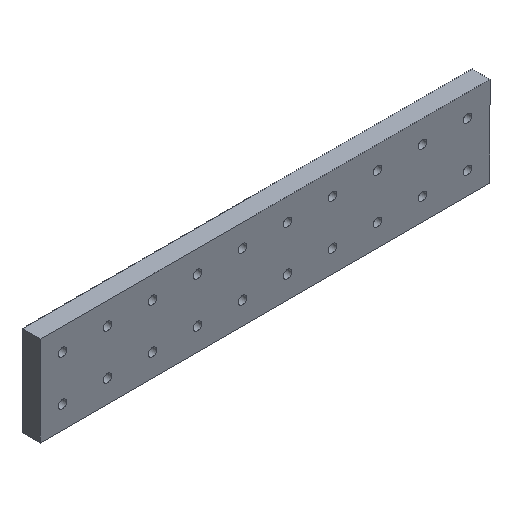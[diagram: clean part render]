
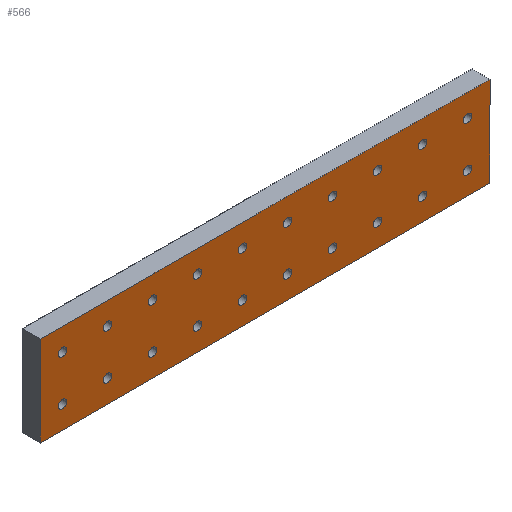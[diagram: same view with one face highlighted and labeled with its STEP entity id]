
A CAD part, isometric view. The second image highlights one B-rep face of the part: STEP entity #566.
In plain terms, the highlighted planar face has unit normal (0, -1, 0).
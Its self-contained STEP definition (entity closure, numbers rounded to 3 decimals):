
#35=FACE_BOUND('',#133,.T.);
#36=FACE_BOUND('',#134,.T.);
#37=FACE_BOUND('',#135,.T.);
#38=FACE_BOUND('',#136,.T.);
#39=FACE_BOUND('',#137,.T.);
#40=FACE_BOUND('',#138,.T.);
#41=FACE_BOUND('',#139,.T.);
#42=FACE_BOUND('',#140,.T.);
#43=FACE_BOUND('',#141,.T.);
#44=FACE_BOUND('',#142,.T.);
#45=FACE_BOUND('',#143,.T.);
#46=FACE_BOUND('',#144,.T.);
#47=FACE_BOUND('',#145,.T.);
#48=FACE_BOUND('',#146,.T.);
#49=FACE_BOUND('',#147,.T.);
#50=FACE_BOUND('',#148,.T.);
#51=FACE_BOUND('',#149,.T.);
#52=FACE_BOUND('',#150,.T.);
#53=FACE_BOUND('',#151,.T.);
#54=FACE_BOUND('',#152,.T.);
#60=PLANE('',#655);
#86=FACE_OUTER_BOUND('',#132,.T.);
#132=EDGE_LOOP('',(#497,#498,#499,#500));
#133=EDGE_LOOP('',(#501));
#134=EDGE_LOOP('',(#502));
#135=EDGE_LOOP('',(#503));
#136=EDGE_LOOP('',(#504));
#137=EDGE_LOOP('',(#505));
#138=EDGE_LOOP('',(#506));
#139=EDGE_LOOP('',(#507));
#140=EDGE_LOOP('',(#508));
#141=EDGE_LOOP('',(#509));
#142=EDGE_LOOP('',(#510));
#143=EDGE_LOOP('',(#511));
#144=EDGE_LOOP('',(#512));
#145=EDGE_LOOP('',(#513));
#146=EDGE_LOOP('',(#514));
#147=EDGE_LOOP('',(#515));
#148=EDGE_LOOP('',(#516));
#149=EDGE_LOOP('',(#517));
#150=EDGE_LOOP('',(#518));
#151=EDGE_LOOP('',(#519));
#152=EDGE_LOOP('',(#520));
#173=LINE('',#946,#205);
#177=LINE('',#954,#209);
#180=LINE('',#960,#212);
#183=LINE('',#965,#215);
#205=VECTOR('',#800,10.);
#209=VECTOR('',#806,10.);
#212=VECTOR('',#811,10.);
#215=VECTOR('',#816,10.);
#218=CIRCLE('',#592,2.25);
#220=CIRCLE('',#595,2.25);
#222=CIRCLE('',#598,2.25);
#224=CIRCLE('',#601,2.25);
#226=CIRCLE('',#604,2.25);
#228=CIRCLE('',#607,2.25);
#230=CIRCLE('',#610,2.25);
#232=CIRCLE('',#613,2.25);
#234=CIRCLE('',#616,2.25);
#236=CIRCLE('',#619,2.25);
#238=CIRCLE('',#622,2.25);
#240=CIRCLE('',#625,2.25);
#242=CIRCLE('',#628,2.25);
#244=CIRCLE('',#631,2.25);
#246=CIRCLE('',#634,2.25);
#248=CIRCLE('',#637,2.25);
#250=CIRCLE('',#640,2.25);
#252=CIRCLE('',#643,2.25);
#254=CIRCLE('',#646,2.25);
#256=CIRCLE('',#649,2.25);
#258=VERTEX_POINT('',#826);
#260=VERTEX_POINT('',#832);
#262=VERTEX_POINT('',#838);
#264=VERTEX_POINT('',#844);
#266=VERTEX_POINT('',#850);
#268=VERTEX_POINT('',#856);
#270=VERTEX_POINT('',#862);
#272=VERTEX_POINT('',#868);
#274=VERTEX_POINT('',#874);
#276=VERTEX_POINT('',#880);
#278=VERTEX_POINT('',#886);
#280=VERTEX_POINT('',#892);
#282=VERTEX_POINT('',#898);
#284=VERTEX_POINT('',#904);
#286=VERTEX_POINT('',#910);
#288=VERTEX_POINT('',#916);
#290=VERTEX_POINT('',#922);
#292=VERTEX_POINT('',#928);
#294=VERTEX_POINT('',#934);
#296=VERTEX_POINT('',#940);
#297=VERTEX_POINT('',#944);
#298=VERTEX_POINT('',#945);
#301=VERTEX_POINT('',#953);
#303=VERTEX_POINT('',#959);
#307=EDGE_CURVE('',#258,#258,#218,.T.);
#310=EDGE_CURVE('',#260,#260,#220,.T.);
#313=EDGE_CURVE('',#262,#262,#222,.T.);
#316=EDGE_CURVE('',#264,#264,#224,.T.);
#319=EDGE_CURVE('',#266,#266,#226,.T.);
#322=EDGE_CURVE('',#268,#268,#228,.T.);
#325=EDGE_CURVE('',#270,#270,#230,.T.);
#328=EDGE_CURVE('',#272,#272,#232,.T.);
#331=EDGE_CURVE('',#274,#274,#234,.T.);
#334=EDGE_CURVE('',#276,#276,#236,.T.);
#337=EDGE_CURVE('',#278,#278,#238,.T.);
#340=EDGE_CURVE('',#280,#280,#240,.T.);
#343=EDGE_CURVE('',#282,#282,#242,.T.);
#346=EDGE_CURVE('',#284,#284,#244,.T.);
#349=EDGE_CURVE('',#286,#286,#246,.T.);
#352=EDGE_CURVE('',#288,#288,#248,.T.);
#355=EDGE_CURVE('',#290,#290,#250,.T.);
#358=EDGE_CURVE('',#292,#292,#252,.T.);
#361=EDGE_CURVE('',#294,#294,#254,.T.);
#364=EDGE_CURVE('',#296,#296,#256,.T.);
#365=EDGE_CURVE('',#297,#298,#173,.T.);
#369=EDGE_CURVE('',#301,#297,#177,.T.);
#372=EDGE_CURVE('',#303,#301,#180,.T.);
#375=EDGE_CURVE('',#298,#303,#183,.T.);
#497=ORIENTED_EDGE('',*,*,#375,.F.);
#498=ORIENTED_EDGE('',*,*,#365,.F.);
#499=ORIENTED_EDGE('',*,*,#369,.F.);
#500=ORIENTED_EDGE('',*,*,#372,.F.);
#501=ORIENTED_EDGE('',*,*,#364,.F.);
#502=ORIENTED_EDGE('',*,*,#361,.F.);
#503=ORIENTED_EDGE('',*,*,#358,.F.);
#504=ORIENTED_EDGE('',*,*,#355,.F.);
#505=ORIENTED_EDGE('',*,*,#352,.F.);
#506=ORIENTED_EDGE('',*,*,#349,.F.);
#507=ORIENTED_EDGE('',*,*,#346,.F.);
#508=ORIENTED_EDGE('',*,*,#343,.F.);
#509=ORIENTED_EDGE('',*,*,#340,.F.);
#510=ORIENTED_EDGE('',*,*,#337,.F.);
#511=ORIENTED_EDGE('',*,*,#334,.F.);
#512=ORIENTED_EDGE('',*,*,#331,.F.);
#513=ORIENTED_EDGE('',*,*,#328,.F.);
#514=ORIENTED_EDGE('',*,*,#325,.F.);
#515=ORIENTED_EDGE('',*,*,#322,.F.);
#516=ORIENTED_EDGE('',*,*,#319,.F.);
#517=ORIENTED_EDGE('',*,*,#316,.F.);
#518=ORIENTED_EDGE('',*,*,#313,.F.);
#519=ORIENTED_EDGE('',*,*,#310,.F.);
#520=ORIENTED_EDGE('',*,*,#307,.F.);
#566=ADVANCED_FACE('',(#86,#35,#36,#37,#38,#39,#40,#41,#42,#43,#44,#45,
#46,#47,#48,#49,#50,#51,#52,#53,#54),#60,.F.);
#592=AXIS2_PLACEMENT_3D('',#828,#663,#664);
#595=AXIS2_PLACEMENT_3D('',#834,#670,#671);
#598=AXIS2_PLACEMENT_3D('',#840,#677,#678);
#601=AXIS2_PLACEMENT_3D('',#846,#684,#685);
#604=AXIS2_PLACEMENT_3D('',#852,#691,#692);
#607=AXIS2_PLACEMENT_3D('',#858,#698,#699);
#610=AXIS2_PLACEMENT_3D('',#864,#705,#706);
#613=AXIS2_PLACEMENT_3D('',#870,#712,#713);
#616=AXIS2_PLACEMENT_3D('',#876,#719,#720);
#619=AXIS2_PLACEMENT_3D('',#882,#726,#727);
#622=AXIS2_PLACEMENT_3D('',#888,#733,#734);
#625=AXIS2_PLACEMENT_3D('',#894,#740,#741);
#628=AXIS2_PLACEMENT_3D('',#900,#747,#748);
#631=AXIS2_PLACEMENT_3D('',#906,#754,#755);
#634=AXIS2_PLACEMENT_3D('',#912,#761,#762);
#637=AXIS2_PLACEMENT_3D('',#918,#768,#769);
#640=AXIS2_PLACEMENT_3D('',#924,#775,#776);
#643=AXIS2_PLACEMENT_3D('',#930,#782,#783);
#646=AXIS2_PLACEMENT_3D('',#936,#789,#790);
#649=AXIS2_PLACEMENT_3D('',#942,#796,#797);
#655=AXIS2_PLACEMENT_3D('',#968,#820,#821);
#663=DIRECTION('center_axis',(0.,-1.,0.));
#664=DIRECTION('ref_axis',(1.,0.,0.));
#670=DIRECTION('center_axis',(0.,-1.,0.));
#671=DIRECTION('ref_axis',(1.,0.,0.));
#677=DIRECTION('center_axis',(0.,-1.,0.));
#678=DIRECTION('ref_axis',(1.,0.,0.));
#684=DIRECTION('center_axis',(0.,-1.,0.));
#685=DIRECTION('ref_axis',(1.,0.,0.));
#691=DIRECTION('center_axis',(0.,-1.,0.));
#692=DIRECTION('ref_axis',(1.,0.,0.));
#698=DIRECTION('center_axis',(0.,-1.,0.));
#699=DIRECTION('ref_axis',(1.,0.,0.));
#705=DIRECTION('center_axis',(0.,-1.,0.));
#706=DIRECTION('ref_axis',(1.,0.,0.));
#712=DIRECTION('center_axis',(0.,-1.,0.));
#713=DIRECTION('ref_axis',(1.,0.,0.));
#719=DIRECTION('center_axis',(0.,-1.,0.));
#720=DIRECTION('ref_axis',(1.,0.,0.));
#726=DIRECTION('center_axis',(0.,-1.,0.));
#727=DIRECTION('ref_axis',(1.,0.,0.));
#733=DIRECTION('center_axis',(0.,-1.,0.));
#734=DIRECTION('ref_axis',(1.,0.,0.));
#740=DIRECTION('center_axis',(0.,-1.,0.));
#741=DIRECTION('ref_axis',(1.,0.,0.));
#747=DIRECTION('center_axis',(0.,-1.,0.));
#748=DIRECTION('ref_axis',(1.,0.,0.));
#754=DIRECTION('center_axis',(0.,-1.,0.));
#755=DIRECTION('ref_axis',(1.,0.,0.));
#761=DIRECTION('center_axis',(0.,-1.,0.));
#762=DIRECTION('ref_axis',(1.,0.,0.));
#768=DIRECTION('center_axis',(0.,-1.,0.));
#769=DIRECTION('ref_axis',(1.,0.,0.));
#775=DIRECTION('center_axis',(0.,-1.,0.));
#776=DIRECTION('ref_axis',(1.,0.,0.));
#782=DIRECTION('center_axis',(0.,-1.,0.));
#783=DIRECTION('ref_axis',(1.,0.,0.));
#789=DIRECTION('center_axis',(0.,-1.,0.));
#790=DIRECTION('ref_axis',(1.,0.,0.));
#796=DIRECTION('center_axis',(0.,-1.,0.));
#797=DIRECTION('ref_axis',(1.,0.,0.));
#800=DIRECTION('',(0.,0.,-1.));
#806=DIRECTION('',(1.,0.,0.));
#811=DIRECTION('',(0.,0.,1.));
#816=DIRECTION('',(-1.,0.,0.));
#820=DIRECTION('center_axis',(0.,1.,0.));
#821=DIRECTION('ref_axis',(0.,0.,1.));
#826=CARTESIAN_POINT('',(-239.75,0.,-12.5));
#828=CARTESIAN_POINT('Origin',(-237.5,0.,-12.5));
#832=CARTESIAN_POINT('',(-214.75,0.,-12.5));
#834=CARTESIAN_POINT('Origin',(-212.5,0.,-12.5));
#838=CARTESIAN_POINT('',(-189.75,0.,-12.5));
#840=CARTESIAN_POINT('Origin',(-187.5,0.,-12.5));
#844=CARTESIAN_POINT('',(-164.75,0.,-12.5));
#846=CARTESIAN_POINT('Origin',(-162.5,0.,-12.5));
#850=CARTESIAN_POINT('',(-139.75,0.,-12.5));
#852=CARTESIAN_POINT('Origin',(-137.5,0.,-12.5));
#856=CARTESIAN_POINT('',(-114.75,0.,-12.5));
#858=CARTESIAN_POINT('Origin',(-112.5,0.,-12.5));
#862=CARTESIAN_POINT('',(-14.75,0.,-12.5));
#864=CARTESIAN_POINT('Origin',(-12.5,0.,-12.5));
#868=CARTESIAN_POINT('',(-14.75,0.,-37.5));
#870=CARTESIAN_POINT('Origin',(-12.5,0.,-37.5));
#874=CARTESIAN_POINT('',(-39.75,0.,-12.5));
#876=CARTESIAN_POINT('Origin',(-37.5,0.,-12.5));
#880=CARTESIAN_POINT('',(-39.75,0.,-37.5));
#882=CARTESIAN_POINT('Origin',(-37.5,0.,-37.5));
#886=CARTESIAN_POINT('',(-64.75,0.,-12.5));
#888=CARTESIAN_POINT('Origin',(-62.5,0.,-12.5));
#892=CARTESIAN_POINT('',(-64.75,0.,-37.5));
#894=CARTESIAN_POINT('Origin',(-62.5,0.,-37.5));
#898=CARTESIAN_POINT('',(-89.75,0.,-12.5));
#900=CARTESIAN_POINT('Origin',(-87.5,0.,-12.5));
#904=CARTESIAN_POINT('',(-89.75,0.,-37.5));
#906=CARTESIAN_POINT('Origin',(-87.5,0.,-37.5));
#910=CARTESIAN_POINT('',(-114.75,0.,-37.5));
#912=CARTESIAN_POINT('Origin',(-112.5,0.,-37.5));
#916=CARTESIAN_POINT('',(-139.75,0.,-37.5));
#918=CARTESIAN_POINT('Origin',(-137.5,0.,-37.5));
#922=CARTESIAN_POINT('',(-164.75,0.,-37.5));
#924=CARTESIAN_POINT('Origin',(-162.5,0.,-37.5));
#928=CARTESIAN_POINT('',(-189.75,0.,-37.5));
#930=CARTESIAN_POINT('Origin',(-187.5,0.,-37.5));
#934=CARTESIAN_POINT('',(-214.75,0.,-37.5));
#936=CARTESIAN_POINT('Origin',(-212.5,0.,-37.5));
#940=CARTESIAN_POINT('',(-239.75,0.,-37.5));
#942=CARTESIAN_POINT('Origin',(-237.5,0.,-37.5));
#944=CARTESIAN_POINT('',(0.,0.,0.));
#945=CARTESIAN_POINT('',(0.,0.,-50.));
#946=CARTESIAN_POINT('',(0.,0.,0.));
#953=CARTESIAN_POINT('',(-250.,0.,0.));
#954=CARTESIAN_POINT('',(-250.,0.,0.));
#959=CARTESIAN_POINT('',(-250.,0.,-50.));
#960=CARTESIAN_POINT('',(-250.,0.,-50.));
#965=CARTESIAN_POINT('',(0.,0.,-50.));
#968=CARTESIAN_POINT('Origin',(-125.,0.,-25.));
